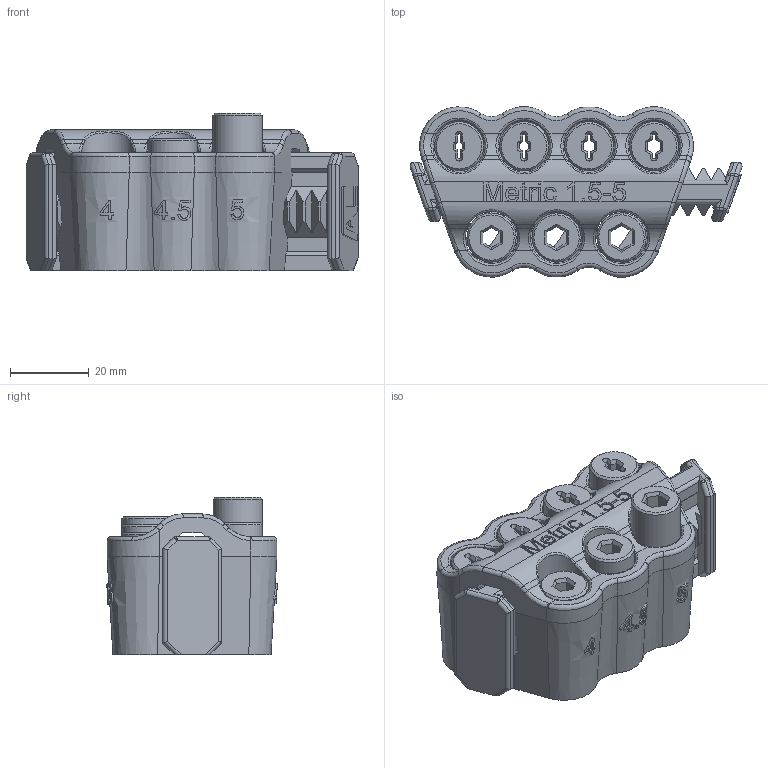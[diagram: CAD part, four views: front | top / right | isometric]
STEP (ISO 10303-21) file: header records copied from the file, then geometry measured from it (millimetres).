
FILE_DESCRIPTION(/* description */ (''),/* implementation_level */ '2;1');
FILE_NAME(/* name */ 'C:/Users/cookn/OneDrive/Documents/Allen Key Holder Files/Metric 1.5-5.step',/* time_stamp */ '2021-08-23T11:31:59-04:00',/* author */ (''),/* organization */ (''),/* preprocessor_version */ 'ST-DEVELOPER v18.1',/* originating_system */ 'Autodesk Translation Framework v10.9.0.1377',/* authorisation */ '');
FILE_SCHEMA (('AUTOMOTIVE_DESIGN { 1 0 10303 214 3 1 1 }'));
Products named in the file (9): Metric 1.5-5; Rack 4 v7; Gear 4 v5; Gear 4 v5 (1); Gear 4 v5 (2); Gear 4 v5 (3); Gear 4 v5 (4); Gear 4 v5 (5); Gear 4 v5 (6)
Assembly tree (8 placements, depth 2):
  Metric 1.5-5
    Rack 4 v7
    Gear 4 v5
    Gear 4 v5 (1)
    Gear 4 v5 (2)
    Gear 4 v5 (3)
    Gear 4 v5 (4)
    Gear 4 v5 (5)
    Gear 4 v5 (6)
Bounding box: 84.3 x 43.33 x 40 mm (x, y, z)
Volume: 70536.1 mm3; surface area: 45357 mm2
Topology: 9 solids, 9 shells, 2214 faces, 5581 edges, 3386 vertices
Faces by surface type: plane 971, bspline 889, cylinder 222, cone 105, torus 19, sphere 8
Full cylindrical faces by diameter (mm): 9 x14, 9.8 x14, 12.5 x14, 13.3 x14
Entity records: 335589 total; most frequent: CARTESIAN_POINT 290228, ORIENTED_EDGE 11162, DIRECTION 6765, EDGE_CURVE 5581, VERTEX_POINT 3386, LINE 2931, VECTOR 2931, EDGE_LOOP 2257
